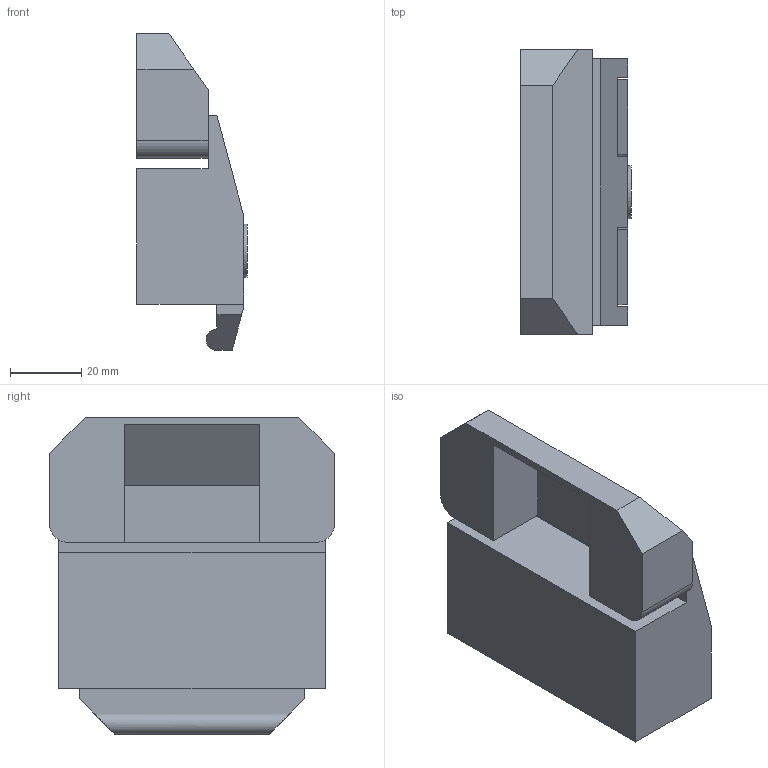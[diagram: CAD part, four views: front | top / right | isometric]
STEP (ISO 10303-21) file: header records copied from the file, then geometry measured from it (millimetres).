
FILE_DESCRIPTION((''),'2;1');
FILE_NAME('E:\catalogue and flyer\Profile catalogue 2015\Accessories ACC info\Accessories ACC step file 31Mar16\ACC-Slam latch.stp','2016-04-07T15:12:50',('h029'),(''),'Autodesk Inventor 11','Autodesk Inventor 11','');
FILE_SCHEMA(('AUTOMOTIVE_DESIGN { 1 0 10303 214 1 1 1 1 }'));
Length unit declared in the file: centimetre
Products named in the file (3): fath_0957301; 1; 2
Assembly tree (2 placements, depth 2):
  fath_0957301
    1
    2
Bounding box: 31 x 80 x 89 mm (x, y, z)
Volume: 123146.8 mm3; surface area: 28005.3 mm2
Topology: 2 solids, 2 shells, 63 faces, 168 edges, 112 vertices
Faces by surface type: plane 53, cylinder 10
Full cylindrical faces by diameter (mm): 15 x1
Entity records: 2020 total; most frequent: CARTESIAN_POINT 347, ORIENTED_EDGE 334, DIRECTION 323, EDGE_CURVE 167, VECTOR 147, LINE 147, VERTEX_POINT 112, AXIS2_PLACEMENT_3D 88
